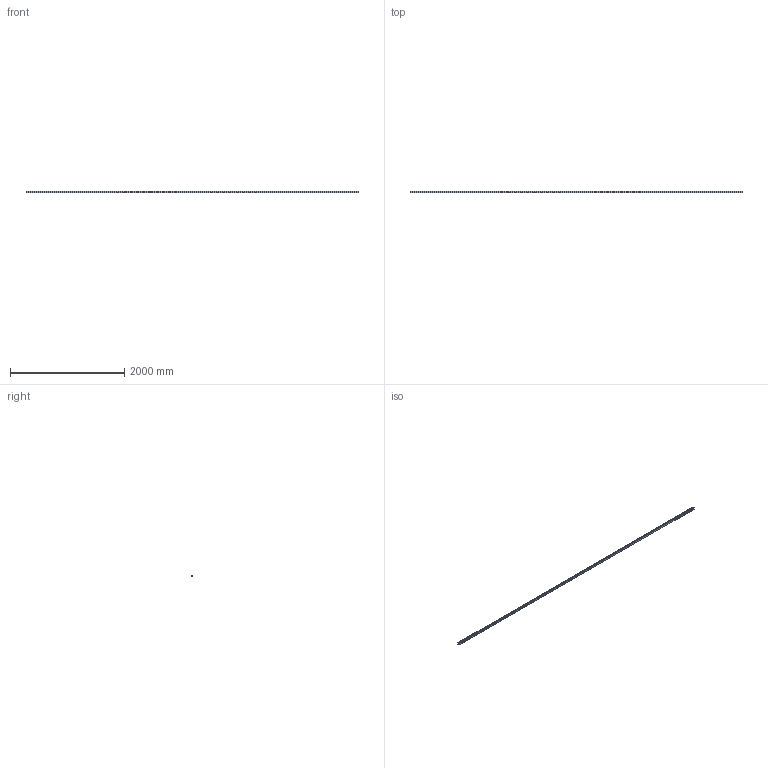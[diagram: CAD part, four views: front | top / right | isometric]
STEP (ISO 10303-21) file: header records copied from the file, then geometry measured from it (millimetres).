
FILE_DESCRIPTION(('STEP AP242'),'1');
FILE_NAME('OPO_65.081.14_volu_3d.stp','2026-01-30T20:49:16',(' '),(' '),'Spatial InterOp 3D',' ',' ');
FILE_SCHEMA(('AP242_MANAGED_MODEL_BASED_3D_ENGINEERING_MIM_LF {1 0 10303 442 1 1 4}'));
Length unit declared in the file: millimetre
Products named in the file (1): 1
Bounding box: 5800 x 34 x 33 mm (x, y, z)
Volume: 1590287.5 mm3; surface area: 1429730.8 mm2
Topology: 1 solids, 1 shells, 92 faces, 256 edges, 170 vertices
Faces by surface type: plane 72, cylinder 20
Entity records: 3676 total; most frequent: CARTESIAN_POINT 519, ORIENTED_EDGE 512, DIRECTION 482, EDGE_CURVE 256, LINE 216, VECTOR 216, VERTEX_POINT 170, AXIS2_PLACEMENT_3D 133
